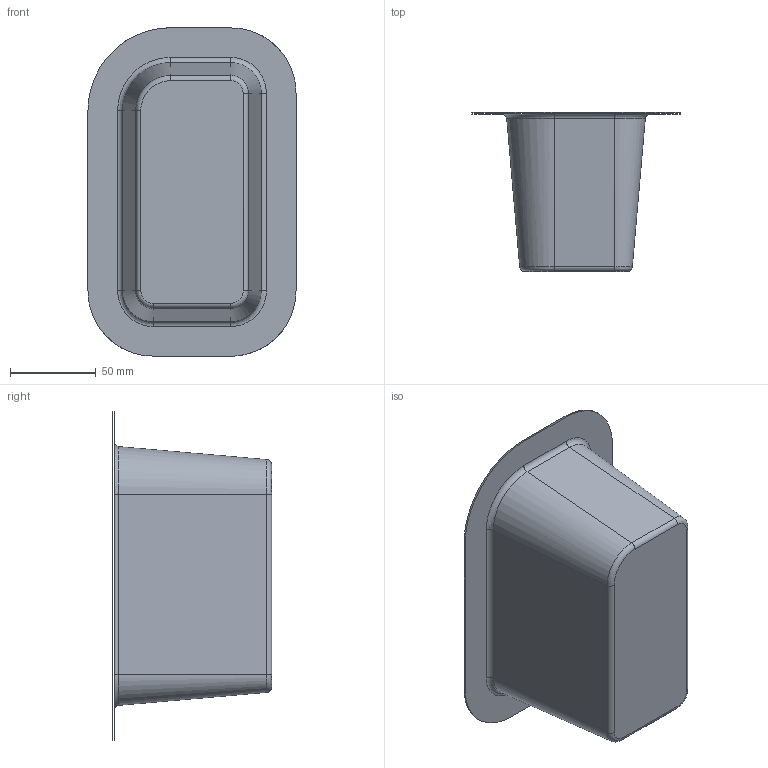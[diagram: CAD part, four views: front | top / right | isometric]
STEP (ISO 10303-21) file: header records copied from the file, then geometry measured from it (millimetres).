
FILE_DESCRIPTION(('CATIA V5 STEP Exchange'),'2;1');
FILE_NAME('C:\_Andres\UNIVERSIDAD\IQS\ASIGNATURAS\DAO\Controles\1617\c3\2inicio\Uria_Ciurana_control3_v35.stp','2017-02-17T14:22:15+00:00',('none'),('none'),'CATIA Version 5-6 Release 2014 SP1 HF18','CATIA V5 STEP AP203','none');
FILE_SCHEMA(('CONFIG_CONTROL_DESIGN'));
Length unit declared in the file: millimetre
Products named in the file (1): Uria_Ciurana_control3_v35
Bounding box: 121.04 x 92.65 x 191.04 mm (x, y, z)
Surface area: 76454.3 mm2 (no closed solid volume)
Topology: 0 solids, 2 shells, 27 faces, 80 edges, 57 vertices
Faces by surface type: bspline 16, cylinder 8, plane 3
Entity records: 1907 total; most frequent: CARTESIAN_POINT 1311, ORIENTED_EDGE 128, EDGE_CURVE 72, B_SPLINE_CURVE_WITH_KNOTS 54, DIRECTION 50, VERTEX_POINT 48, EDGE_LOOP 28, ADVANCED_FACE 27
